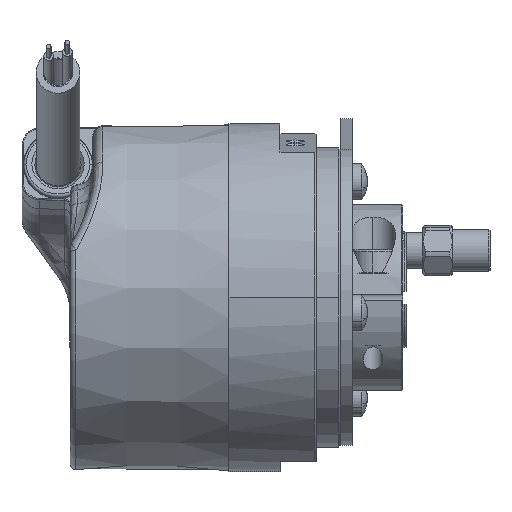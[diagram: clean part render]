
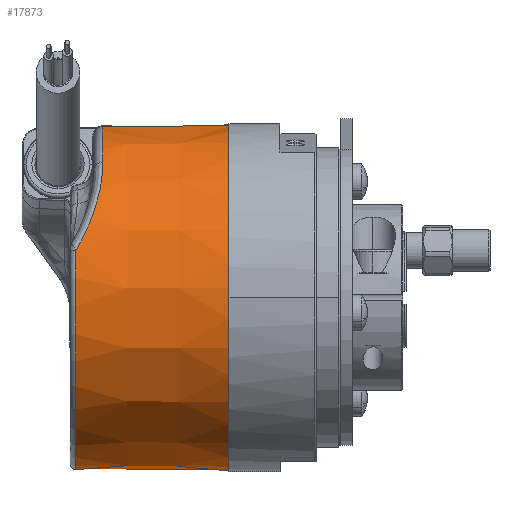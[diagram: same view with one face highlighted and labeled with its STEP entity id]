
A CAD part, top view. The second image highlights one B-rep face of the part: STEP entity #17873.
In plain terms, the highlighted conical face has half-angle 0.5 degrees and reference radius 29 mm.
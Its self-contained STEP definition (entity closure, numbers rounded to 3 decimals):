
#1546 = EDGE_CURVE ( 'NONE', #1559, #1547, #8393, .T. ) ;
#1547 = VERTEX_POINT ( 'NONE', #8388 ) ;
#1558 = EDGE_CURVE ( 'NONE', #1559, #1560, #8425, .T. ) ;
#1559 = VERTEX_POINT ( 'NONE', #8524 ) ;
#1560 = VERTEX_POINT ( 'NONE', #8522 ) ;
#1608 = VERTEX_POINT ( 'NONE', #8788 ) ;
#1610 = EDGE_CURVE ( 'NONE', #1611, #1608, #8782, .T. ) ;
#1611 = VERTEX_POINT ( 'NONE', #8778 ) ;
#1648 = EDGE_CURVE ( 'NONE', #1649, #1611, #9546, .T. ) ;
#1649 = VERTEX_POINT ( 'NONE', #9617 ) ;
#8388 = CARTESIAN_POINT ( 'NONE',  ( 7.5, 28.684, 3.522 ) ) ;
#8389 = DIRECTION ( 'NONE',  ( 1., 0.009, 0.001 ) ) ;
#8390 = VECTOR ( 'NONE', #8389, 1000. ) ;
#8392 = CARTESIAN_POINT ( 'NONE',  ( 19., 28.784, 3.534 ) ) ;
#8393 = LINE ( 'NONE', #8392, #8390 ) ;
#8425 = CIRCLE ( 'NONE', #8531, 28.716 ) ;
#8522 = CARTESIAN_POINT ( 'NONE',  ( -13.513, 22.576, 17.747 ) ) ;
#8524 = CARTESIAN_POINT ( 'NONE',  ( -13.513, 28.502, 3.5 ) ) ;
#8525 = DIRECTION ( 'NONE',  ( 0., -0.993, -0.122 ) ) ;
#8527 = DIRECTION ( 'NONE',  ( 1., 0., 0. ) ) ;
#8529 = CARTESIAN_POINT ( 'NONE',  ( -13.513, 0., 0. ) ) ;
#8531 = AXIS2_PLACEMENT_3D ( 'NONE', #8529, #8527, #8525 ) ;
#8778 = CARTESIAN_POINT ( 'NONE',  ( -18.009, -28.463, -3.495 ) ) ;
#8779 = DIRECTION ( 'NONE',  ( 1., -0.009, -0.001 ) ) ;
#8780 = VECTOR ( 'NONE', #8779, 1000. ) ;
#8781 = CARTESIAN_POINT ( 'NONE',  ( 19., -28.784, -3.534 ) ) ;
#8782 = LINE ( 'NONE', #8781, #8780 ) ;
#8788 = CARTESIAN_POINT ( 'NONE',  ( 7.5, -28.684, -3.522 ) ) ;
#9546 = CIRCLE ( 'NONE', #9621, 28.677 ) ;
#9617 = CARTESIAN_POINT ( 'NONE',  ( -18.009, 7.822, 27.59 ) ) ;
#9618 = DIRECTION ( 'NONE',  ( 0., 0.993, 0.122 ) ) ;
#9619 = DIRECTION ( 'NONE',  ( 1., 0., 0. ) ) ;
#9620 = CARTESIAN_POINT ( 'NONE',  ( -18.009, 0., 0. ) ) ;
#9621 = AXIS2_PLACEMENT_3D ( 'NONE', #9620, #9619, #9618 ) ;
#12251 = CIRCLE ( 'NONE', #12306, 28.9 ) ;
#12303 = DIRECTION ( 'NONE',  ( 0., -0.993, -0.122 ) ) ;
#12304 = DIRECTION ( 'NONE',  ( 1., 0., 0. ) ) ;
#12305 = CARTESIAN_POINT ( 'NONE',  ( 7.5, 0., 0. ) ) ;
#12306 = AXIS2_PLACEMENT_3D ( 'NONE', #12305, #12304, #12303 ) ;
#12366 = DIRECTION ( 'NONE',  ( 0., -0.993, -0.122 ) ) ;
#12367 = DIRECTION ( 'NONE',  ( 1., 0., 0. ) ) ;
#12368 = CARTESIAN_POINT ( 'NONE',  ( 19., 0., 0. ) ) ;
#12369 = AXIS2_PLACEMENT_3D ( 'NONE', #12368, #12367, #12366 ) ;
#12370 = CONICAL_SURFACE ( 'NONE', #12369, 29., 0.009 ) ;
#12385 = FACE_OUTER_BOUND ( 'NONE', #17874, .T. ) ;
#12916 = CARTESIAN_POINT ( 'NONE',  ( -18.009, 7.822, 27.59 ) ) ;
#12917 = CARTESIAN_POINT ( 'NONE',  ( -17.619, 8.483, 27.406 ) ) ;
#12918 = CARTESIAN_POINT ( 'NONE',  ( -17.253, 9.148, 27.195 ) ) ;
#12919 = CARTESIAN_POINT ( 'NONE',  ( -16.572, 10.484, 26.715 ) ) ;
#12920 = CARTESIAN_POINT ( 'NONE',  ( -16.255, 11.157, 26.444 ) ) ;
#12921 = CARTESIAN_POINT ( 'NONE',  ( -15.389, 13.156, 25.549 ) ) ;
#12922 = CARTESIAN_POINT ( 'NONE',  ( -14.923, 14.459, 24.842 ) ) ;
#12923 = CARTESIAN_POINT ( 'NONE',  ( -14.374, 16.358, 23.605 ) ) ;
#12924 = CARTESIAN_POINT ( 'NONE',  ( -14.216, 16.981, 23.163 ) ) ;
#12925 = CARTESIAN_POINT ( 'NONE',  ( -14.016, 17.9, 22.453 ) ) ;
#12926 = CARTESIAN_POINT ( 'NONE',  ( -13.955, 18.204, 22.207 ) ) ;
#12927 = CARTESIAN_POINT ( 'NONE',  ( -13.846, 18.801, 21.705 ) ) ;
#12928 = CARTESIAN_POINT ( 'NONE',  ( -13.798, 19.095, 21.448 ) ) ;
#12929 = CARTESIAN_POINT ( 'NONE',  ( -13.587, 20.534, 20.134 ) ) ;
#12930 = CARTESIAN_POINT ( 'NONE',  ( -13.513, 21.6, 18.988 ) ) ;
#12931 = CARTESIAN_POINT ( 'NONE',  ( -13.513, 22.576, 17.747 ) ) ;
#12941 = B_SPLINE_CURVE_WITH_KNOTS ( 'NONE', 3,
 ( #12931, #12930, #12929, #12928, #12927, #12926, #12925, #12924, #12923, #12922, #12921, #12920, #12919, #12918, #12917, #12916 ),
 .UNSPECIFIED., .F., .F.,
 ( 4, 2, 2, 2, 2, 2, 2, 4 ),
 ( 0., 0.005, 0.006, 0.007, 0.009, 0.014, 0.016, 0.019 ),
 .UNSPECIFIED. ) ;
#17855 = ORIENTED_EDGE ( 'NONE', *, *, #1610, .T. ) ;
#17856 = ORIENTED_EDGE ( 'NONE', *, *, #17857, .F. ) ;
#17857 = EDGE_CURVE ( 'NONE', #1547, #1608, #12251, .T. ) ;
#17873 = ADVANCED_FACE ( 'NONE', ( #12385 ), #12370, .T. ) ;
#17874 = EDGE_LOOP ( 'NONE', ( #17875, #17931, #17932, #17934, #17855, #17856 ) ) ;
#17875 = ORIENTED_EDGE ( 'NONE', *, *, #1546, .F. ) ;
#17931 = ORIENTED_EDGE ( 'NONE', *, *, #1558, .T. ) ;
#17932 = ORIENTED_EDGE ( 'NONE', *, *, #17933, .T. ) ;
#17933 = EDGE_CURVE ( 'NONE', #1560, #1649, #12941, .T. ) ;
#17934 = ORIENTED_EDGE ( 'NONE', *, *, #1648, .T. ) ;
